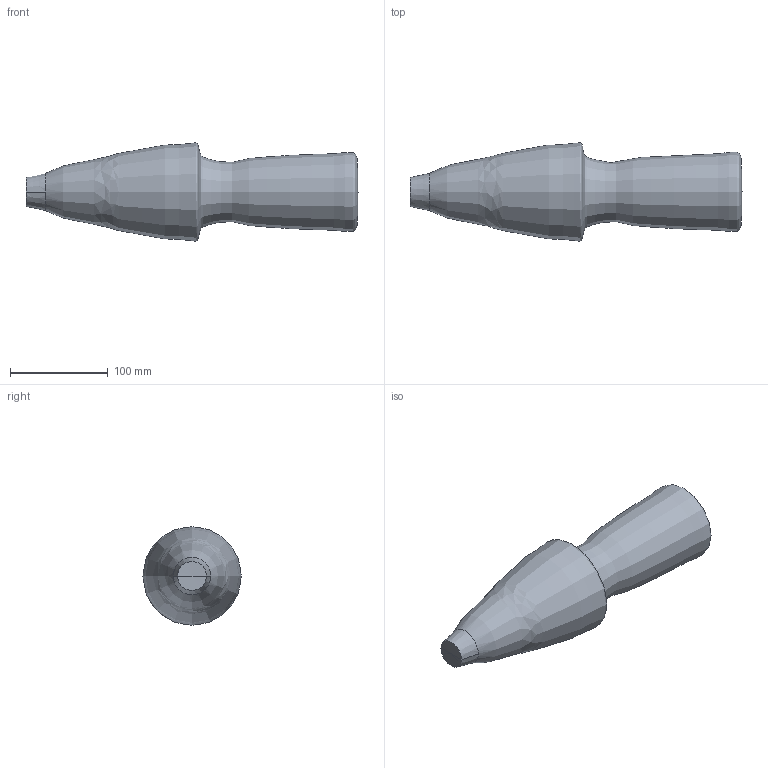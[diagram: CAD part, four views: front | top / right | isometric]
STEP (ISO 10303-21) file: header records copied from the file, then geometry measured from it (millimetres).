
FILE_DESCRIPTION((''),'2;1');
FILE_NAME('C:\Dokumente und Einstellungen\Kramp\Eigene Dateien\Microsonic Nacharbeit 2\restliche Änderungen\STP\Schallfeld Betriebstastw 250mm Platte.stp','2005-08-11T08:22:39',('Kramp'),(''),'Autodesk Inventor 7','Autodesk Inventor 7','');
FILE_SCHEMA(('AUTOMOTIVE_DESIGN { 1 0 10303 214 1 1 1 1 }'));
Length unit declared in the file: millimetre
Products named in the file (1): Schallfeld Betriebstastw 250mm Platte
Bounding box: 340.2 x 100.8 x 100.8 mm (x, y, z)
Volume: 1468430.4 mm3; surface area: 86311 mm2
Topology: 1 solids, 1 shells, 5 faces, 12 edges, 6 vertices
Faces by surface type: cone 4, bspline 1
Entity records: 432 total; most frequent: CARTESIAN_POINT 309, DIRECTION 22, ORIENTED_EDGE 18, AXIS2_PLACEMENT_3D 9, EDGE_CURVE 9, VERTEX_POINT 6, EDGE_LOOP 5, FACE_OUTER_BOUND 5
